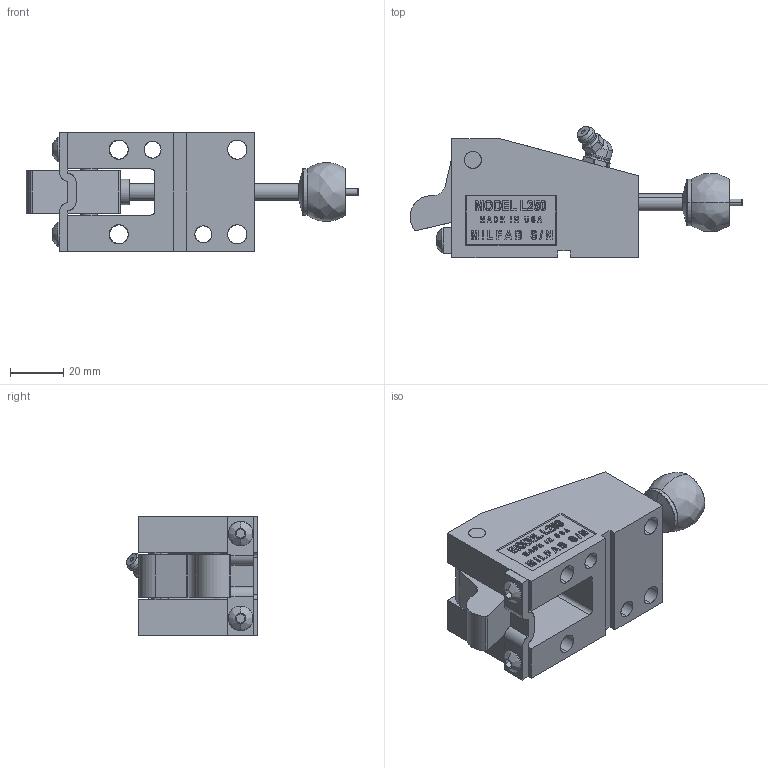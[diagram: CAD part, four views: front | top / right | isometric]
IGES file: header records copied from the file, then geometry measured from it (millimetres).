
Start section: SolidWorks IGES file using analytic representation for surfaces
Global section: file name: Y:\JIM'S INCH CAM UNITS\L25045\CLOSED\L25045-C.IGS; native system: SolidWorks 2006 by SolidWorks Corporation; preprocessor: SolidWorks 2006 by SolidWorks Corporation; author: Jim; date: 090204.134612; units: inch
Bounding box: 124.4 x 49.12 x 44.45 mm (x, y, z)
Surface area: 34741 mm2 (no closed solid volume)
Topology: 0 solids, 0 shells, 578 faces, 7267 edges, 7265 vertices
Faces by surface type: bspline 448, revolution 130
